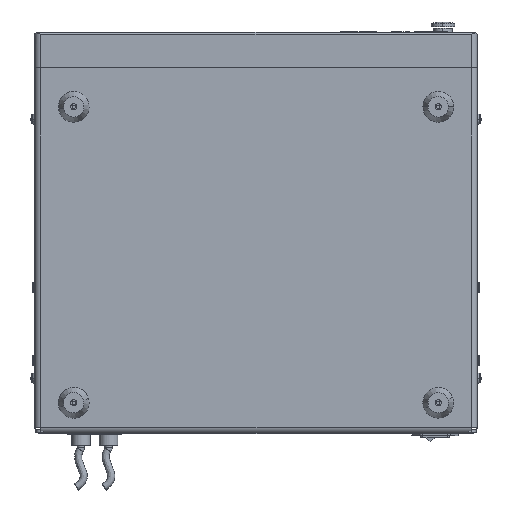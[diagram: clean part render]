
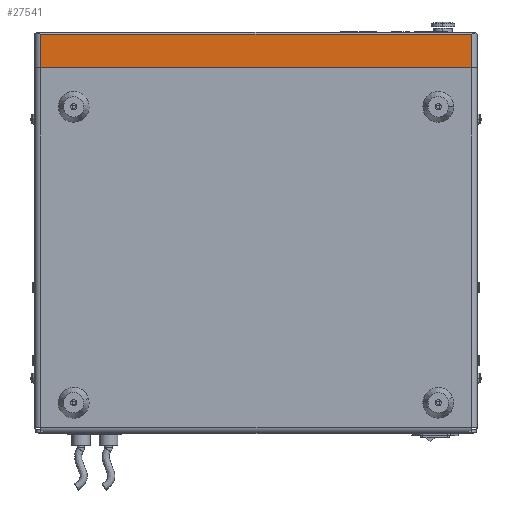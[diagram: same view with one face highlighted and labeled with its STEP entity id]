
A CAD part, top view. The second image highlights one B-rep face of the part: STEP entity #27541.
In plain terms, the highlighted planar face has unit normal (0, 0, 1).
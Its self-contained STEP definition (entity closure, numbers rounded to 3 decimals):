
#3092 = FACE_OUTER_BOUND ( 'NONE', #70687, .T. ) ;
#3455 = DIRECTION ( 'NONE',  ( -1., 0., 0. ) ) ;
#6361 = EDGE_CURVE ( 'NONE', #32793, #24332, #22897, .T. ) ;
#6519 = CARTESIAN_POINT ( 'NONE',  ( 179.993, 198.235, 66. ) ) ;
#9230 = PLANE ( 'NONE',  #11311 ) ;
#10588 = DIRECTION ( 'NONE',  ( 0., 1., 0. ) ) ;
#11311 = AXIS2_PLACEMENT_3D ( 'NONE', #67686, #43839, #3455 ) ;
#15416 = ORIENTED_EDGE ( 'NONE', *, *, #23142, .T. ) ;
#21057 = LINE ( 'NONE', #62548, #39834 ) ;
#22897 = LINE ( 'NONE', #40194, #75561 ) ;
#23142 = EDGE_CURVE ( 'NONE', #53282, #32793, #21057, .T. ) ;
#24332 = VERTEX_POINT ( 'NONE', #37404 ) ;
#26045 = VECTOR ( 'NONE', #57213, 1000. ) ;
#27541 = ADVANCED_FACE ( 'NONE', ( #3092 ), #9230, .F. ) ;
#28767 = LINE ( 'NONE', #75693, #66166 ) ;
#32793 = VERTEX_POINT ( 'NONE', #6519 ) ;
#32935 = DIRECTION ( 'NONE',  ( 1., 0., 0. ) ) ;
#33492 = CARTESIAN_POINT ( 'NONE',  ( -240.007, 198.235, 66. ) ) ;
#37404 = CARTESIAN_POINT ( 'NONE',  ( 179.993, 231.235, 66. ) ) ;
#39834 = VECTOR ( 'NONE', #32935, 1000. ) ;
#40194 = CARTESIAN_POINT ( 'NONE',  ( 179.993, 233.235, 66. ) ) ;
#43839 = DIRECTION ( 'NONE',  ( 0., 0., -1. ) ) ;
#45605 = CARTESIAN_POINT ( 'NONE',  ( -240.007, 231.235, 66. ) ) ;
#46434 = CARTESIAN_POINT ( 'NONE',  ( -240.007, 233.235, 66. ) ) ;
#50394 = EDGE_CURVE ( 'NONE', #24332, #58294, #28767, .T. ) ;
#52257 = DIRECTION ( 'NONE',  ( -1., 0., 0. ) ) ;
#53122 = ORIENTED_EDGE ( 'NONE', *, *, #56267, .T. ) ;
#53282 = VERTEX_POINT ( 'NONE', #33492 ) ;
#56267 = EDGE_CURVE ( 'NONE', #58294, #53282, #75674, .T. ) ;
#57213 = DIRECTION ( 'NONE',  ( 0., -1., 0. ) ) ;
#58294 = VERTEX_POINT ( 'NONE', #45605 ) ;
#62548 = CARTESIAN_POINT ( 'NONE',  ( -246.007, 198.235, 66. ) ) ;
#66166 = VECTOR ( 'NONE', #52257, 1000. ) ;
#66525 = ORIENTED_EDGE ( 'NONE', *, *, #50394, .T. ) ;
#67686 = CARTESIAN_POINT ( 'NONE',  ( -246.007, 233.235, 66. ) ) ;
#70687 = EDGE_LOOP ( 'NONE', ( #66525, #53122, #15416, #75007 ) ) ;
#75007 = ORIENTED_EDGE ( 'NONE', *, *, #6361, .T. ) ;
#75561 = VECTOR ( 'NONE', #10588, 1000. ) ;
#75674 = LINE ( 'NONE', #46434, #26045 ) ;
#75693 = CARTESIAN_POINT ( 'NONE',  ( -246.007, 231.235, 66. ) ) ;
